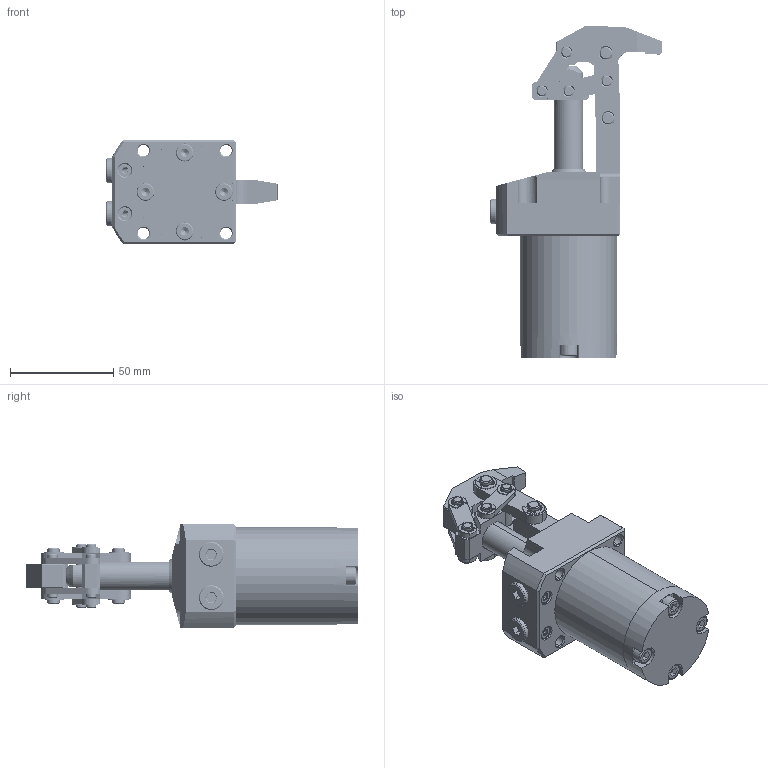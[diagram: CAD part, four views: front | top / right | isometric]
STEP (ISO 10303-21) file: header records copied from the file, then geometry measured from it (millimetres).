
FILE_DESCRIPTION (( 'STEP AP203' ), '1' );
FILE_NAME ('CLF5H-25G油压杠杆缸三维图.STEP', '2015-08-05T06:25:49', ( '微软用户' ), ( '微软中国' ), 'SwSTEP 2.0', 'SolidWorks 2012', '' );
FILE_SCHEMA (( 'CONFIG_CONTROL_DESIGN' ));
Products named in the file (17): 羲諳結种0.5; 种粣1; 蟀裝4; 蟀裝2; 綴裔; 滅鳥猾; 掛极; CLF5H-25G油压杠杆缸三维图; 羲諳結种0.3; 种粣3; 种粣2; 蟀裝1; 蟀裝3; 揤旋; 活塞杆; 囀鞠褒黑芛; hexagon socket head cap screws gb_GB_FASTENER_SCREWS_HSHCS M5X20-S
Assembly tree (36 placements, depth 2):
  CLF5H-25G油压杠杆缸三维图
    掛极
    滅鳥猾
    綴裔
    hexagon socket head cap screws gb_GB_FASTENER_SCREWS_HSHCS M5X20-S  x4
    囀鞠褒黑芛  x2
    活塞杆
    蟀裝4  x2
    蟀裝2
    揤旋
    蟀裝3  x2
    蟀裝1  x2
    种粣1  x2
    羲諳結种0.5  x8
    种粣2  x2
    种粣3  x2
    羲諳結种0.3  x4
Bounding box: 83.05 x 160.7 x 50 mm (x, y, z)
Volume: 192374.3 mm3; surface area: 63397 mm2
Topology: 36 solids, 36 shells, 2449 faces, 5781 edges, 3454 vertices
Faces by surface type: cylinder 1149, cone 810, plane 390, torus 58, bspline 42
Entity records: 59179 total; most frequent: CARTESIAN_POINT 29664, ORIENTED_EDGE 5982, DIRECTION 5563, EDGE_CURVE 2991, AXIS2_PLACEMENT_3D 2144, VERTEX_POINT 1853, EDGE_LOOP 1308, VECTOR 1275
